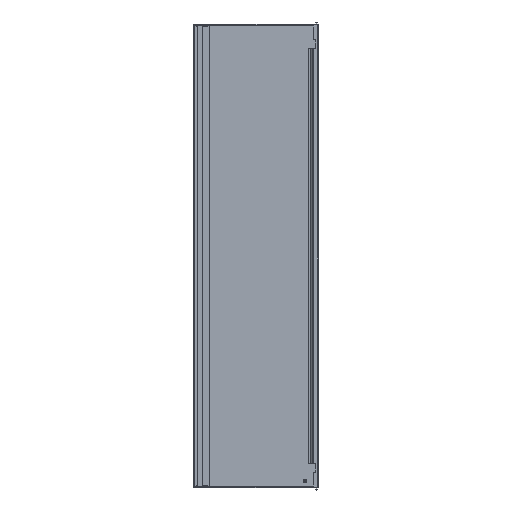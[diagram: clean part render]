
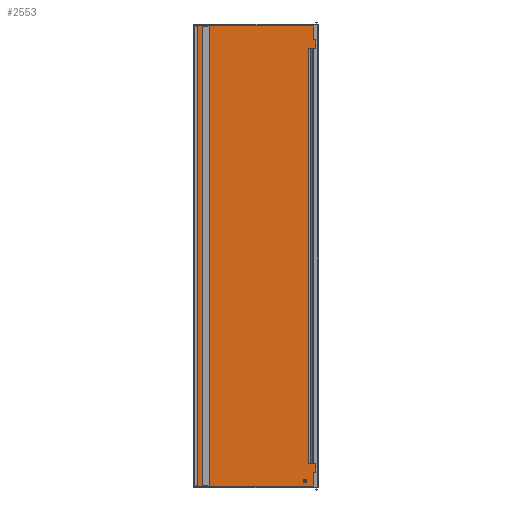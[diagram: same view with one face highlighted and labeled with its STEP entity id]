
A CAD part, top view. The second image highlights one B-rep face of the part: STEP entity #2553.
In plain terms, the highlighted planar face has unit normal (0, 0, 1).
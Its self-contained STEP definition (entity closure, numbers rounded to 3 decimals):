
#607 = EDGE_LOOP ( 'NONE', ( #1915, #1917, #1916, #1918 ) ) ;
#608 = EDGE_LOOP ( 'NONE', ( #1919, #1921, #1920, #1922, #1923, #1924 ) ) ;
#609 = EDGE_LOOP ( 'NONE', ( #1926, #1927 ) ) ;
#610 = EDGE_LOOP ( 'NONE', ( #1925, #1929, #1928, #1930 ) ) ;
#1158 = DIRECTION ( 'NONE',  ( 1., 0., 0. ) ) ;
#1159 = DIRECTION ( 'NONE',  ( 0., 0., 1. ) ) ;
#1160 = CARTESIAN_POINT ( 'NONE',  ( 0., 0., -12. ) ) ;
#1161 = PLANE ( 'NONE',  #4511 ) ;
#1333 = CARTESIAN_POINT ( 'NONE',  ( -224.6, -956.75, -12. ) ) ;
#1334 = CARTESIAN_POINT ( 'NONE',  ( -195.5, -956.75, -12. ) ) ;
#1335 = CARTESIAN_POINT ( 'NONE',  ( -224.6, 956.75, -12. ) ) ;
#1336 = CARTESIAN_POINT ( 'NONE',  ( -195.5, 956.75, -12. ) ) ;
#1337 = CARTESIAN_POINT ( 'NONE',  ( 224.621, 865.75, -12. ) ) ;
#1338 = CARTESIAN_POINT ( 'NONE',  ( 220.121, 861.25, -12. ) ) ;
#1339 = CARTESIAN_POINT ( 'NONE',  ( 220.121, -861.25, -12. ) ) ;
#1340 = CARTESIAN_POINT ( 'NONE',  ( 224.621, -865.75, -12. ) ) ;
#1341 = CARTESIAN_POINT ( 'NONE',  ( 226.879, 865.75, -12. ) ) ;
#1342 = CARTESIAN_POINT ( 'NONE',  ( 226.879, -865.75, -12. ) ) ;
#1343 = CARTESIAN_POINT ( 'NONE',  ( -256., -963.75, -12. ) ) ;
#1344 = CARTESIAN_POINT ( 'NONE',  ( -256., 963.75, -12. ) ) ;
#1345 = CARTESIAN_POINT ( 'NONE',  ( 256., -963.75, -12. ) ) ;
#1346 = CARTESIAN_POINT ( 'NONE',  ( 256., 963.75, -12. ) ) ;
#1359 = CARTESIAN_POINT ( 'NONE',  ( 204.25, -936.75, -12. ) ) ;
#1360 = CARTESIAN_POINT ( 'NONE',  ( 203.75, -936.75, -12. ) ) ;
#1695 = VERTEX_POINT ( 'NONE', #1360 ) ;
#1696 = VERTEX_POINT ( 'NONE', #1359 ) ;
#1709 = VERTEX_POINT ( 'NONE', #1346 ) ;
#1710 = VERTEX_POINT ( 'NONE', #1345 ) ;
#1711 = VERTEX_POINT ( 'NONE', #1344 ) ;
#1712 = VERTEX_POINT ( 'NONE', #1343 ) ;
#1713 = VERTEX_POINT ( 'NONE', #1342 ) ;
#1714 = VERTEX_POINT ( 'NONE', #1341 ) ;
#1715 = VERTEX_POINT ( 'NONE', #1340 ) ;
#1716 = VERTEX_POINT ( 'NONE', #1339 ) ;
#1717 = VERTEX_POINT ( 'NONE', #1338 ) ;
#1718 = VERTEX_POINT ( 'NONE', #1337 ) ;
#1719 = VERTEX_POINT ( 'NONE', #1336 ) ;
#1720 = VERTEX_POINT ( 'NONE', #1335 ) ;
#1721 = VERTEX_POINT ( 'NONE', #1334 ) ;
#1722 = VERTEX_POINT ( 'NONE', #1333 ) ;
#1915 = ORIENTED_EDGE ( 'NONE', *, *, #2704, .F. ) ;
#1916 = ORIENTED_EDGE ( 'NONE', *, *, #2705, .F. ) ;
#1917 = ORIENTED_EDGE ( 'NONE', *, *, #2703, .F. ) ;
#1918 = ORIENTED_EDGE ( 'NONE', *, *, #2707, .F. ) ;
#1919 = ORIENTED_EDGE ( 'NONE', *, *, #2708, .F. ) ;
#1920 = ORIENTED_EDGE ( 'NONE', *, *, #2709, .T. ) ;
#1921 = ORIENTED_EDGE ( 'NONE', *, *, #2706, .T. ) ;
#1922 = ORIENTED_EDGE ( 'NONE', *, *, #2710, .T. ) ;
#1923 = ORIENTED_EDGE ( 'NONE', *, *, #2711, .T. ) ;
#1924 = ORIENTED_EDGE ( 'NONE', *, *, #2712, .F. ) ;
#1925 = ORIENTED_EDGE ( 'NONE', *, *, #2715, .F. ) ;
#1926 = ORIENTED_EDGE ( 'NONE', *, *, #2713, .F. ) ;
#1927 = ORIENTED_EDGE ( 'NONE', *, *, #2687, .F. ) ;
#1928 = ORIENTED_EDGE ( 'NONE', *, *, #2716, .F. ) ;
#1929 = ORIENTED_EDGE ( 'NONE', *, *, #2714, .F. ) ;
#1930 = ORIENTED_EDGE ( 'NONE', *, *, #2717, .F. ) ;
#2097 = AXIS2_PLACEMENT_3D ( 'NONE', #3506, #3483, #3482 ) ;
#2148 = VECTOR ( 'NONE', #3488, 1000. ) ;
#2218 = VECTOR ( 'NONE', #3472, 1000. ) ;
#2219 = VECTOR ( 'NONE', #3466, 1000. ) ;
#2228 = VECTOR ( 'NONE', #3484, 1000. ) ;
#2262 = VECTOR ( 'NONE', #3478, 1000. ) ;
#2274 = VECTOR ( 'NONE', #3500, 1000. ) ;
#2297 = VECTOR ( 'NONE', #3463, 1000. ) ;
#2298 = VECTOR ( 'NONE', #3457, 1000. ) ;
#2300 = VECTOR ( 'NONE', #3494, 1000. ) ;
#2302 = VECTOR ( 'NONE', #3491, 1000. ) ;
#2308 = VECTOR ( 'NONE', #3497, 1000. ) ;
#2310 = AXIS2_PLACEMENT_3D ( 'NONE', #3475, #3471, #3470 ) ;
#2311 = VECTOR ( 'NONE', #3460, 1000. ) ;
#2448 = CIRCLE ( 'NONE', #2310, 0.25 ) ;
#2449 = CIRCLE ( 'NONE', #3318, 4.5 ) ;
#2450 = CIRCLE ( 'NONE', #2097, 4.5 ) ;
#2457 = CIRCLE ( 'NONE', #4277, 0.25 ) ;
#2553 = ADVANCED_FACE ( 'NONE', ( #4514, #4509, #4507, #4505 ), #1161, .T. ) ;
#2687 = EDGE_CURVE ( 'NONE', #1695, #1696, #2457, .T. ) ;
#2703 = EDGE_CURVE ( 'NONE', #1711, #1709, #3502, .T. ) ;
#2704 = EDGE_CURVE ( 'NONE', #1709, #1710, #3499, .T. ) ;
#2705 = EDGE_CURVE ( 'NONE', #1712, #1711, #3496, .T. ) ;
#2706 = EDGE_CURVE ( 'NONE', #1713, #1715, #3493, .T. ) ;
#2707 = EDGE_CURVE ( 'NONE', #1710, #1712, #3490, .T. ) ;
#2708 = EDGE_CURVE ( 'NONE', #1713, #1714, #3487, .T. ) ;
#2709 = EDGE_CURVE ( 'NONE', #1715, #1716, #2450, .T. ) ;
#2710 = EDGE_CURVE ( 'NONE', #1716, #1717, #3480, .T. ) ;
#2711 = EDGE_CURVE ( 'NONE', #1717, #1718, #2449, .T. ) ;
#2712 = EDGE_CURVE ( 'NONE', #1714, #1718, #3474, .T. ) ;
#2713 = EDGE_CURVE ( 'NONE', #1696, #1695, #2448, .T. ) ;
#2714 = EDGE_CURVE ( 'NONE', #1721, #1719, #3468, .T. ) ;
#2715 = EDGE_CURVE ( 'NONE', #1719, #1720, #3465, .T. ) ;
#2716 = EDGE_CURVE ( 'NONE', #1722, #1721, #3462, .T. ) ;
#2717 = EDGE_CURVE ( 'NONE', #1720, #1722, #3459, .T. ) ;
#3318 = AXIS2_PLACEMENT_3D ( 'NONE', #3481, #3477, #3476 ) ;
#3457 = DIRECTION ( 'NONE',  ( 0., -1., 0. ) ) ;
#3458 = CARTESIAN_POINT ( 'NONE',  ( -224.6, -956.75, -12. ) ) ;
#3459 = LINE ( 'NONE', #3458, #2298 ) ;
#3460 = DIRECTION ( 'NONE',  ( 1., 0., 0. ) ) ;
#3461 = CARTESIAN_POINT ( 'NONE',  ( -224.6, -956.75, -12. ) ) ;
#3462 = LINE ( 'NONE', #3461, #2311 ) ;
#3463 = DIRECTION ( 'NONE',  ( -1., 0., 0. ) ) ;
#3464 = CARTESIAN_POINT ( 'NONE',  ( -224.6, 956.75, -12. ) ) ;
#3465 = LINE ( 'NONE', #3464, #2297 ) ;
#3466 = DIRECTION ( 'NONE',  ( 0., 1., 0. ) ) ;
#3467 = CARTESIAN_POINT ( 'NONE',  ( -195.5, -956.75, -12. ) ) ;
#3468 = LINE ( 'NONE', #3467, #2219 ) ;
#3470 = DIRECTION ( 'NONE',  ( 1., 0., 0. ) ) ;
#3471 = DIRECTION ( 'NONE',  ( 0., 0., 1. ) ) ;
#3472 = DIRECTION ( 'NONE',  ( -1., 0., 0. ) ) ;
#3473 = CARTESIAN_POINT ( 'NONE',  ( 226.879, 865.75, -12. ) ) ;
#3474 = LINE ( 'NONE', #3473, #2218 ) ;
#3475 = CARTESIAN_POINT ( 'NONE',  ( 204., -936.75, -12. ) ) ;
#3476 = DIRECTION ( 'NONE',  ( 1., 0., 0. ) ) ;
#3477 = DIRECTION ( 'NONE',  ( 0., 0., -1. ) ) ;
#3478 = DIRECTION ( 'NONE',  ( 0., 1., 0. ) ) ;
#3479 = CARTESIAN_POINT ( 'NONE',  ( 220.121, -888.171, -12. ) ) ;
#3480 = LINE ( 'NONE', #3479, #2262 ) ;
#3481 = CARTESIAN_POINT ( 'NONE',  ( 224.621, 861.25, -12. ) ) ;
#3482 = DIRECTION ( 'NONE',  ( 1., 0., 0. ) ) ;
#3483 = DIRECTION ( 'NONE',  ( 0., 0., -1. ) ) ;
#3484 = DIRECTION ( 'NONE',  ( 0., 1., 0. ) ) ;
#3486 = CARTESIAN_POINT ( 'NONE',  ( 226.879, -888.171, -12. ) ) ;
#3487 = LINE ( 'NONE', #3486, #2228 ) ;
#3488 = DIRECTION ( 'NONE',  ( -1., 0., 0. ) ) ;
#3489 = CARTESIAN_POINT ( 'NONE',  ( 0., -963.75, -12. ) ) ;
#3490 = LINE ( 'NONE', #3489, #2148 ) ;
#3491 = DIRECTION ( 'NONE',  ( -1., 0., 0. ) ) ;
#3492 = CARTESIAN_POINT ( 'NONE',  ( 226.879, -865.75, -12. ) ) ;
#3493 = LINE ( 'NONE', #3492, #2302 ) ;
#3494 = DIRECTION ( 'NONE',  ( 0., 1., 0. ) ) ;
#3495 = CARTESIAN_POINT ( 'NONE',  ( -256., 0., -12. ) ) ;
#3496 = LINE ( 'NONE', #3495, #2300 ) ;
#3497 = DIRECTION ( 'NONE',  ( 0., -1., 0. ) ) ;
#3498 = CARTESIAN_POINT ( 'NONE',  ( 256., 0., -12. ) ) ;
#3499 = LINE ( 'NONE', #3498, #2308 ) ;
#3500 = DIRECTION ( 'NONE',  ( 1., 0., 0. ) ) ;
#3501 = CARTESIAN_POINT ( 'NONE',  ( 0., 963.75, -12. ) ) ;
#3502 = LINE ( 'NONE', #3501, #2274 ) ;
#3506 = CARTESIAN_POINT ( 'NONE',  ( 224.621, -861.25, -12. ) ) ;
#3549 = DIRECTION ( 'NONE',  ( 1., 0., 0. ) ) ;
#3550 = DIRECTION ( 'NONE',  ( 0., 0., 1. ) ) ;
#3551 = CARTESIAN_POINT ( 'NONE',  ( 204., -936.75, -12. ) ) ;
#4277 = AXIS2_PLACEMENT_3D ( 'NONE', #3551, #3550, #3549 ) ;
#4505 = FACE_BOUND ( 'NONE', #610, .T. ) ;
#4507 = FACE_BOUND ( 'NONE', #609, .T. ) ;
#4509 = FACE_BOUND ( 'NONE', #608, .T. ) ;
#4511 = AXIS2_PLACEMENT_3D ( 'NONE', #1160, #1159, #1158 ) ;
#4514 = FACE_OUTER_BOUND ( 'NONE', #607, .T. ) ;
